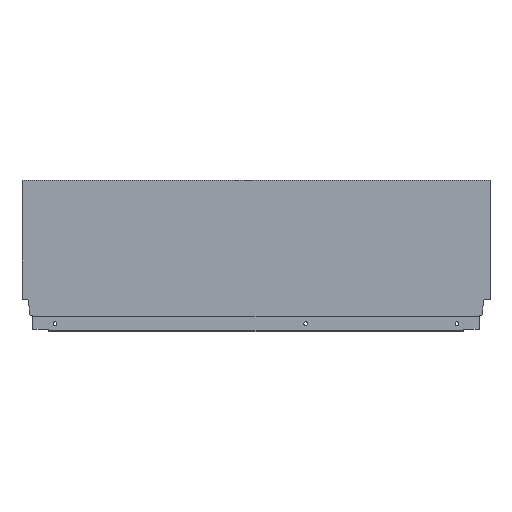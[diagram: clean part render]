
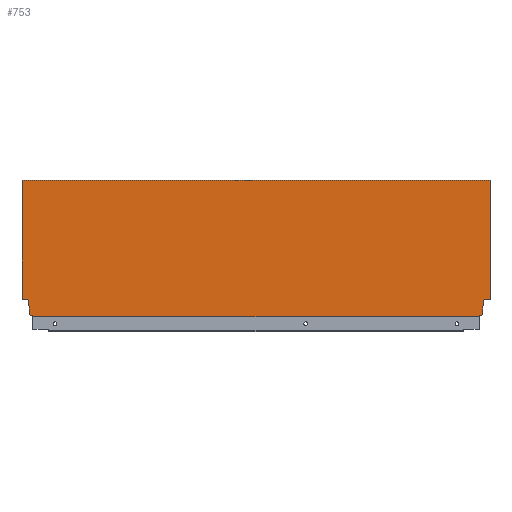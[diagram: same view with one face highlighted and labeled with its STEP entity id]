
A CAD part, top view. The second image highlights one B-rep face of the part: STEP entity #753.
In plain terms, the highlighted planar face has unit normal (0, 0, 1).
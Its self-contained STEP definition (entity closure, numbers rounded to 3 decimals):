
#11 = CARTESIAN_POINT ( 'NONE',  ( 0., 21.2, 7.5 ) ) ;
#26 = CARTESIAN_POINT ( 'NONE',  ( -565., 21.2, 7.5 ) ) ;
#27 = CARTESIAN_POINT ( 'NONE',  ( -565., 164.7, 7.5 ) ) ;
#44 = CARTESIAN_POINT ( 'NONE',  ( 0., 164.7, 7.5 ) ) ;
#53 = VECTOR ( 'NONE', #394, 1000. ) ;
#54 = LINE ( 'NONE', #391, #53 ) ;
#57 = VECTOR ( 'NONE', #384, 1000. ) ;
#58 = LINE ( 'NONE', #383, #57 ) ;
#59 = VECTOR ( 'NONE', #382, 1000. ) ;
#60 = LINE ( 'NONE', #386, #59 ) ;
#63 = VECTOR ( 'NONE', #355, 1000. ) ;
#64 = LINE ( 'NONE', #356, #63 ) ;
#163 = ORIENTED_EDGE ( 'NONE', *, *, #569, .F. ) ;
#164 = ORIENTED_EDGE ( 'NONE', *, *, #572, .T. ) ;
#293 = ORIENTED_EDGE ( 'NONE', *, *, #587, .F. ) ;
#294 = ORIENTED_EDGE ( 'NONE', *, *, #586, .F. ) ;
#295 = ORIENTED_EDGE ( 'NONE', *, *, #576, .F. ) ;
#296 = ORIENTED_EDGE ( 'NONE', *, *, #568, .F. ) ;
#297 = ORIENTED_EDGE ( 'NONE', *, *, #570, .F. ) ;
#298 = ORIENTED_EDGE ( 'NONE', *, *, #582, .F. ) ;
#299 = ORIENTED_EDGE ( 'NONE', *, *, #579, .F. ) ;
#301 = ORIENTED_EDGE ( 'NONE', *, *, #580, .T. ) ;
#302 = ORIENTED_EDGE ( 'NONE', *, *, #573, .F. ) ;
#303 = ORIENTED_EDGE ( 'NONE', *, *, #574, .F. ) ;
#304 = ORIENTED_EDGE ( 'NONE', *, *, #567, .F. ) ;
#305 = ORIENTED_EDGE ( 'NONE', *, *, #577, .F. ) ;
#350 = DIRECTION ( 'NONE',  ( 0., -1., 0. ) ) ;
#353 = CARTESIAN_POINT ( 'NONE',  ( -565., 0., 7.5 ) ) ;
#355 = DIRECTION ( 'NONE',  ( -0.174, 0.985, 0. ) ) ;
#356 = CARTESIAN_POINT ( 'NONE',  ( -557.94, 21.2, 7.5 ) ) ;
#357 = CARTESIAN_POINT ( 'NONE',  ( -7.06, 21.2, 7.5 ) ) ;
#358 = DIRECTION ( 'NONE',  ( -0.174, -0.985, 0. ) ) ;
#359 = CARTESIAN_POINT ( 'NONE',  ( -556.1, 10.765, 7.5 ) ) ;
#360 = DIRECTION ( 'NONE',  ( 0., 1., 0. ) ) ;
#366 = CARTESIAN_POINT ( 'NONE',  ( -551.996, 1.146, 7.5 ) ) ;
#378 = CARTESIAN_POINT ( 'NONE',  ( -570., 21.2, 7.5 ) ) ;
#379 = DIRECTION ( 'NONE',  ( -1., 0., 0. ) ) ;
#380 = CARTESIAN_POINT ( 'NONE',  ( -8.9, 10.765, 7.5 ) ) ;
#381 = DIRECTION ( 'NONE',  ( 0., -1., 0. ) ) ;
#382 = DIRECTION ( 'NONE',  ( 0., -1., 0. ) ) ;
#383 = CARTESIAN_POINT ( 'NONE',  ( -565., 0., 7.5 ) ) ;
#384 = DIRECTION ( 'NONE',  ( 1., 0., 0. ) ) ;
#386 = CARTESIAN_POINT ( 'NONE',  ( -13.004, 1.146, 7.5 ) ) ;
#391 = CARTESIAN_POINT ( 'NONE',  ( -8.9, 2.64, 7.5 ) ) ;
#394 = DIRECTION ( 'NONE',  ( -0.94, -0.342, 0. ) ) ;
#406 = DIRECTION ( 'NONE',  ( 0., 1., 0. ) ) ;
#407 = DIRECTION ( 'NONE',  ( -1., 0., 0. ) ) ;
#418 = CARTESIAN_POINT ( 'NONE',  ( -556.1, 2.64, 7.5 ) ) ;
#426 = DIRECTION ( 'NONE',  ( -0.94, 0.342, 0. ) ) ;
#427 = CARTESIAN_POINT ( 'NONE',  ( 0., 21.2, 7.5 ) ) ;
#434 = CARTESIAN_POINT ( 'NONE',  ( 0., 0., 7.5 ) ) ;
#435 = DIRECTION ( 'NONE',  ( 0., -1., 0. ) ) ;
#438 = CARTESIAN_POINT ( 'NONE',  ( -565., 164.7, 7.5 ) ) ;
#439 = DIRECTION ( 'NONE',  ( 1., 0., 0. ) ) ;
#567 = EDGE_CURVE ( 'NONE', #1326, #1448, #782, .T. ) ;
#568 = EDGE_CURVE ( 'NONE', #1462, #1422, #771, .T. ) ;
#569 = EDGE_CURVE ( 'NONE', #1346, #1527, #769, .T. ) ;
#570 = EDGE_CURVE ( 'NONE', #1422, #1514, #767, .T. ) ;
#572 = EDGE_CURVE ( 'NONE', #1525, #1527, #763, .T. ) ;
#573 = EDGE_CURVE ( 'NONE', #1313, #1412, #773, .T. ) ;
#574 = EDGE_CURVE ( 'NONE', #1412, #1326, #760, .T. ) ;
#576 = EDGE_CURVE ( 'NONE', #1538, #1462, #777, .T. ) ;
#577 = EDGE_CURVE ( 'NONE', #1448, #1346, #64, .T. ) ;
#579 = EDGE_CURVE ( 'NONE', #1507, #1504, #60, .T. ) ;
#580 = EDGE_CURVE ( 'NONE', #1313, #1504, #58, .T. ) ;
#582 = EDGE_CURVE ( 'NONE', #1514, #1507, #54, .T. ) ;
#586 = EDGE_CURVE ( 'NONE', #1522, #1538, #1545, .T. ) ;
#587 = EDGE_CURVE ( 'NONE', #1525, #1522, #1067, .T. ) ;
#641 = AXIS2_PLACEMENT_3D ( 'NONE', #1176, #1170, #1169 ) ;
#647 = VECTOR ( 'NONE', #439, 1000. ) ;
#659 = FACE_OUTER_BOUND ( 'NONE', #980, .T. ) ;
#753 = ADVANCED_FACE ( 'NONE', ( #659 ), #1181, .T. ) ;
#759 = VECTOR ( 'NONE', #426, 1000. ) ;
#760 = LINE ( 'NONE', #418, #759 ) ;
#761 = VECTOR ( 'NONE', #406, 1000. ) ;
#762 = VECTOR ( 'NONE', #350, 1000. ) ;
#763 = LINE ( 'NONE', #353, #762 ) ;
#766 = VECTOR ( 'NONE', #381, 1000. ) ;
#767 = LINE ( 'NONE', #380, #766 ) ;
#768 = VECTOR ( 'NONE', #379, 1000. ) ;
#769 = LINE ( 'NONE', #378, #768 ) ;
#770 = VECTOR ( 'NONE', #358, 1000. ) ;
#771 = LINE ( 'NONE', #357, #770 ) ;
#773 = LINE ( 'NONE', #366, #761 ) ;
#775 = VECTOR ( 'NONE', #360, 1000. ) ;
#777 = LINE ( 'NONE', #427, #779 ) ;
#779 = VECTOR ( 'NONE', #407, 1000. ) ;
#782 = LINE ( 'NONE', #359, #775 ) ;
#917 = VECTOR ( 'NONE', #435, 1000. ) ;
#980 = EDGE_LOOP ( 'NONE', ( #164, #163, #305, #304, #303, #302, #301, #299, #298, #297, #296, #295, #294, #293 ) ) ;
#1067 = LINE ( 'NONE', #438, #647 ) ;
#1079 = CARTESIAN_POINT ( 'NONE',  ( -8.9, 2.64, 7.5 ) ) ;
#1086 = CARTESIAN_POINT ( 'NONE',  ( -13.004, 1.146, 7.5 ) ) ;
#1089 = CARTESIAN_POINT ( 'NONE',  ( -13.004, 0., 7.5 ) ) ;
#1100 = CARTESIAN_POINT ( 'NONE',  ( -7.06, 21.2, 7.5 ) ) ;
#1104 = CARTESIAN_POINT ( 'NONE',  ( -556.1, 10.765, 7.5 ) ) ;
#1109 = CARTESIAN_POINT ( 'NONE',  ( -8.9, 10.765, 7.5 ) ) ;
#1114 = CARTESIAN_POINT ( 'NONE',  ( -551.996, 1.146, 7.5 ) ) ;
#1136 = CARTESIAN_POINT ( 'NONE',  ( -557.94, 21.2, 7.5 ) ) ;
#1144 = CARTESIAN_POINT ( 'NONE',  ( -551.996, 0., 7.5 ) ) ;
#1148 = CARTESIAN_POINT ( 'NONE',  ( -556.1, 2.64, 7.5 ) ) ;
#1169 = DIRECTION ( 'NONE',  ( 1., 0., 0. ) ) ;
#1170 = DIRECTION ( 'NONE',  ( 0., 0., 1. ) ) ;
#1176 = CARTESIAN_POINT ( 'NONE',  ( -565., 0., 7.5 ) ) ;
#1181 = PLANE ( 'NONE',  #641 ) ;
#1313 = VERTEX_POINT ( 'NONE', #1144 ) ;
#1326 = VERTEX_POINT ( 'NONE', #1148 ) ;
#1346 = VERTEX_POINT ( 'NONE', #1136 ) ;
#1412 = VERTEX_POINT ( 'NONE', #1114 ) ;
#1422 = VERTEX_POINT ( 'NONE', #1109 ) ;
#1448 = VERTEX_POINT ( 'NONE', #1104 ) ;
#1462 = VERTEX_POINT ( 'NONE', #1100 ) ;
#1504 = VERTEX_POINT ( 'NONE', #1089 ) ;
#1507 = VERTEX_POINT ( 'NONE', #1086 ) ;
#1514 = VERTEX_POINT ( 'NONE', #1079 ) ;
#1522 = VERTEX_POINT ( 'NONE', #44 ) ;
#1525 = VERTEX_POINT ( 'NONE', #27 ) ;
#1527 = VERTEX_POINT ( 'NONE', #26 ) ;
#1538 = VERTEX_POINT ( 'NONE', #11 ) ;
#1545 = LINE ( 'NONE', #434, #917 ) ;
